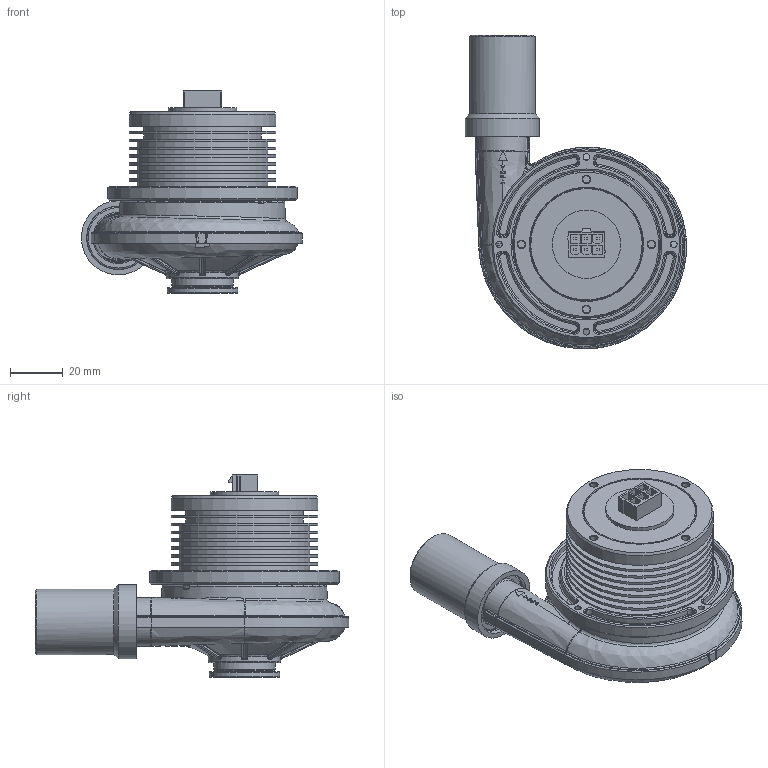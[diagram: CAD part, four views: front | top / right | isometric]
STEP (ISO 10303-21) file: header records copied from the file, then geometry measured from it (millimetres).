
FILE_DESCRIPTION(/* description */ (''),/* implementation_level */ '2;1');
FILE_NAME(/* name */ 'U85MX-024KE-42.stp',/* time_stamp */ '2024-06-20T16:12:12+02:00',/* author */ (''),/* organization */ (''),/* preprocessor_version */ 'ST-DEVELOPER v16.7',/* originating_system */ 'SIEMENS PLM Software NX 1946',/* authorisation */ '');
FILE_SCHEMA (('AUTOMOTIVE_DESIGN { 1 0 10303 214 3 1 1 1 }'));
Length unit declared in the file: millimetre
Products named in the file (1): 021749_1-U85MX-024KE-42_Simple _-_
Bounding box: 84.19 x 119.45 x 76.9 mm (x, y, z)
Volume: 193909.3 mm3; surface area: 44199.7 mm2
Topology: 1 solids, 2 shells, 962 faces, 2341 edges, 1446 vertices
Faces by surface type: plane 363, cylinder 243, bspline 243, cone 55, torus 44, sphere 12, extrusion 1, revolution 1
Full cylindrical faces by diameter (mm): 2.5 x4, 2.75 x4, 14.5 x1, 14.6 x1, 18.5 x1, 23 x1, 23.34 x1, 24 x1, 24.2 x1, 25 x2, 25.9 x1, 26 x1, 27 x1, 28.2 x1, 43 x1, 45 x2, 50 x7, 56 x9, 72 x1
Entity records: 36348 total; most frequent: CARTESIAN_POINT 17026, ORIENTED_EDGE 4486, DIRECTION 3002, EDGE_CURVE 2243, VERTEX_POINT 1423, AXIS2_PLACEMENT_3D 1142, EDGE_LOOP 1116, B_SPLINE_CURVE_WITH_KNOTS 1080
